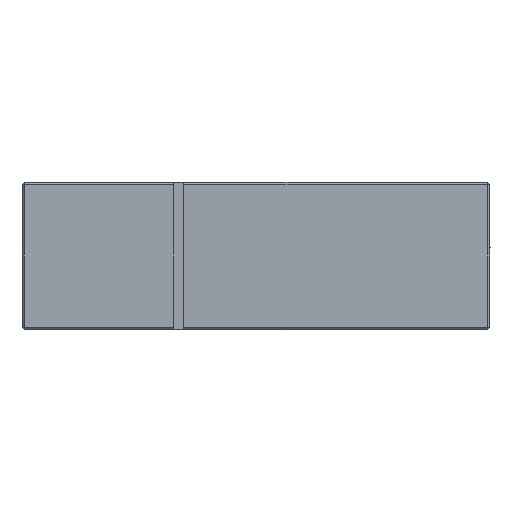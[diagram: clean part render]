
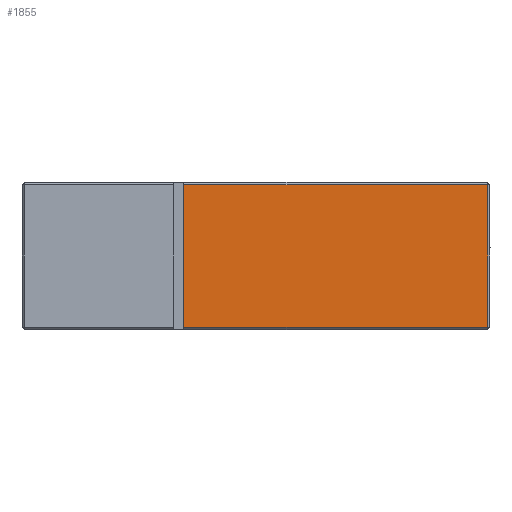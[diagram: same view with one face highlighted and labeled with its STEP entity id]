
A CAD part, left-side view. The second image highlights one B-rep face of the part: STEP entity #1855.
In plain terms, the highlighted planar face has unit normal (-1, 0, 0).
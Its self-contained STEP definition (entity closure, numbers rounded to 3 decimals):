
#431 = EDGE_CURVE ( 'NONE', #2479, #2672, #5593, .T. ) ;
#817 = FACE_OUTER_BOUND ( 'NONE', #1282, .T. ) ;
#1087 = EDGE_CURVE ( 'NONE', #5751, #2672, #1939, .T. ) ;
#1166 = DIRECTION ( 'NONE',  ( 0., 0., 1. ) ) ;
#1282 = EDGE_LOOP ( 'NONE', ( #2103, #2030, #1688, #1644 ) ) ;
#1359 = CARTESIAN_POINT ( 'NONE',  ( -8., 9.55, 3. ) ) ;
#1388 = CARTESIAN_POINT ( 'NONE',  ( -8., -9.45, 2.9 ) ) ;
#1644 = ORIENTED_EDGE ( 'NONE', *, *, #1087, .T. ) ;
#1688 = ORIENTED_EDGE ( 'NONE', *, *, #3209, .T. ) ;
#1722 = EDGE_CURVE ( 'NONE', #2479, #2915, #5067, .T. ) ;
#1855 = ADVANCED_FACE ( 'NONE', ( #817 ), #4244, .F. ) ;
#1907 = CARTESIAN_POINT ( 'NONE',  ( -8., 2.95, 2.9 ) ) ;
#1939 = LINE ( 'NONE', #1907, #4859 ) ;
#2030 = ORIENTED_EDGE ( 'NONE', *, *, #1722, .T. ) ;
#2103 = ORIENTED_EDGE ( 'NONE', *, *, #431, .F. ) ;
#2177 = CARTESIAN_POINT ( 'NONE',  ( -8., 2.95, -3. ) ) ;
#2194 = CARTESIAN_POINT ( 'NONE',  ( -8., 2.95, 2.9 ) ) ;
#2329 = LINE ( 'NONE', #4195, #2934 ) ;
#2479 = VERTEX_POINT ( 'NONE', #5341 ) ;
#2672 = VERTEX_POINT ( 'NONE', #2194 ) ;
#2883 = DIRECTION ( 'NONE',  ( 1., 0., 0. ) ) ;
#2915 = VERTEX_POINT ( 'NONE', #4613 ) ;
#2934 = VECTOR ( 'NONE', #4300, 1000. ) ;
#3209 = EDGE_CURVE ( 'NONE', #2915, #5751, #2329, .T. ) ;
#3238 = VECTOR ( 'NONE', #1166, 1000. ) ;
#3486 = AXIS2_PLACEMENT_3D ( 'NONE', #1359, #2883, #5629 ) ;
#3677 = DIRECTION ( 'NONE',  ( 0., -1., 0. ) ) ;
#3786 = VECTOR ( 'NONE', #3677, 1000. ) ;
#4195 = CARTESIAN_POINT ( 'NONE',  ( -8., -9.45, 3. ) ) ;
#4244 = PLANE ( 'NONE',  #3486 ) ;
#4300 = DIRECTION ( 'NONE',  ( 0., 0., 1. ) ) ;
#4613 = CARTESIAN_POINT ( 'NONE',  ( -8., -9.45, -2.9 ) ) ;
#4859 = VECTOR ( 'NONE', #5767, 1000. ) ;
#5067 = LINE ( 'NONE', #5667, #3786 ) ;
#5341 = CARTESIAN_POINT ( 'NONE',  ( -8., 2.95, -2.9 ) ) ;
#5593 = LINE ( 'NONE', #2177, #3238 ) ;
#5629 = DIRECTION ( 'NONE',  ( 0., 1., 0. ) ) ;
#5667 = CARTESIAN_POINT ( 'NONE',  ( -8., 9.55, -2.9 ) ) ;
#5751 = VERTEX_POINT ( 'NONE', #1388 ) ;
#5767 = DIRECTION ( 'NONE',  ( 0., 1., 0. ) ) ;
